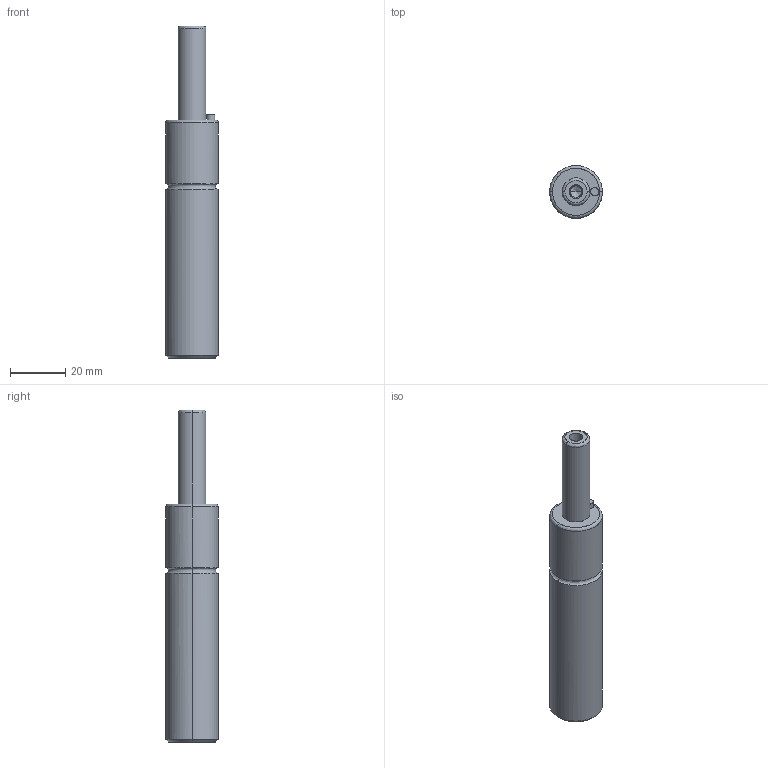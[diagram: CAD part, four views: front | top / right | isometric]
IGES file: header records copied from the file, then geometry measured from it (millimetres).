
Global section: file name: E:\UnigraphicsGraphicData\MISUMI_PRESS-PARTS\IGES\3d_gsm19-32_03897_r00.igs; native system: NX V5.0; preprocessor: UGS NX IGES V5.0; author: MISUMI; date: 20110105.160805; units: millimetre
Bounding box: 19 x 18.94 x 120 mm (x, y, z)
Surface area: 7086.8 mm2 (no closed solid volume)
Topology: 0 solids, 0 shells, 34 faces, 208 edges, 204 vertices
Faces by surface type: bspline 34
